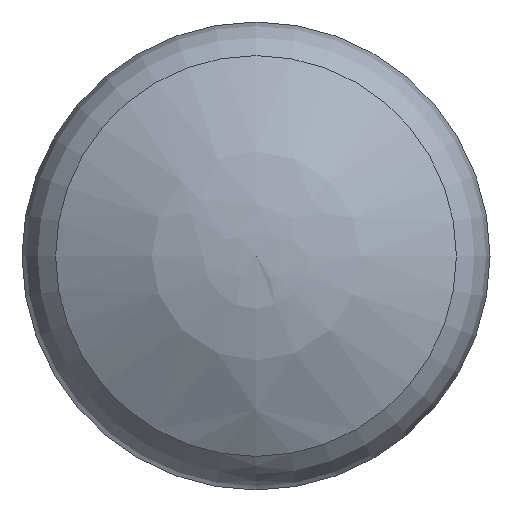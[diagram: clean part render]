
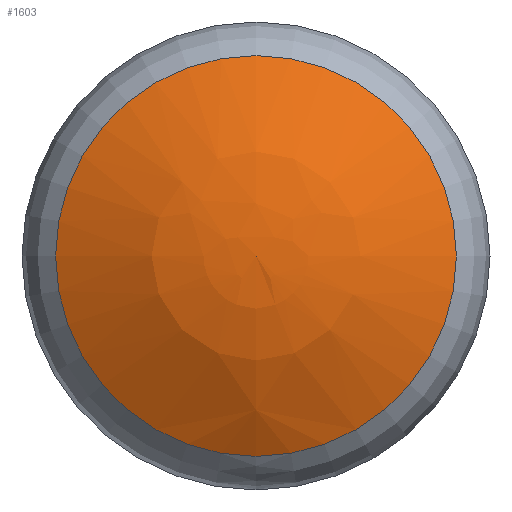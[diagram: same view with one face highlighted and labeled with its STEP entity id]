
A CAD part, front view. The second image highlights one B-rep face of the part: STEP entity #1603.
In plain terms, the highlighted free-form (B-spline) face has degree [2, 2] with [3, 9] control points.
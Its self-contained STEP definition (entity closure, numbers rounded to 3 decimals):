
#64=(
BOUNDED_SURFACE()
B_SPLINE_SURFACE(2,2,((#2544,#2545,#2546,#2547,#2548,#2549,#2550,#2551,
#2552),(#2553,#2554,#2555,#2556,#2557,#2558,#2559,#2560,#2561),(#2562,#2563,
#2564,#2565,#2566,#2567,#2568,#2569,#2570)),.UNSPECIFIED.,.F.,.T.,.F.)
B_SPLINE_SURFACE_WITH_KNOTS((3,3),(3,2,2,2,3),(-1.571,-0.996),
(-3.142,-1.571,0.,1.571,3.142),
 .UNSPECIFIED.)
GEOMETRIC_REPRESENTATION_ITEM()
RATIONAL_B_SPLINE_SURFACE(((1.,0.707,1.,0.707,1.,
0.707,1.,0.707,1.),(0.959,0.678,
0.959,0.678,0.959,0.678,
0.959,0.678,0.959),(1.,0.707,
1.,0.707,1.,0.707,1.,0.707,1.)))
REPRESENTATION_ITEM('')
SURFACE()
);
#186=FACE_OUTER_BOUND('',#267,.T.);
#267=EDGE_LOOP('',(#1154,#1155,#1156));
#360=CIRCLE('',#1728,21.75);
#375=CIRCLE('',#1749,40.);
#633=VERTEX_POINT('',#2480);
#644=VERTEX_POINT('',#2571);
#817=EDGE_CURVE('',#633,#633,#360,.T.);
#836=EDGE_CURVE('',#633,#644,#375,.T.);
#1154=ORIENTED_EDGE('',*,*,#817,.F.);
#1155=ORIENTED_EDGE('',*,*,#836,.T.);
#1156=ORIENTED_EDGE('',*,*,#836,.F.);
#1603=ADVANCED_FACE('',(#186),#64,.F.);
#1728=AXIS2_PLACEMENT_3D('',#2482,#1970,#1971);
#1749=AXIS2_PLACEMENT_3D('',#2572,#2016,#2017);
#1970=DIRECTION('center_axis',(0.,1.,0.));
#1971=DIRECTION('ref_axis',(1.,0.,0.));
#2016=DIRECTION('center_axis',(-1.,0.,0.));
#2017=DIRECTION('ref_axis',(0.,0.,-1.));
#2480=CARTESIAN_POINT('',(0.,6.43,-21.75));
#2482=CARTESIAN_POINT('Origin',(0.,6.43,0.));
#2544=CARTESIAN_POINT('Ctrl Pts',(0.,0.,
0.));
#2545=CARTESIAN_POINT('Ctrl Pts',(0.,0.,
0.));
#2546=CARTESIAN_POINT('Ctrl Pts',(0.,0.,
0.));
#2547=CARTESIAN_POINT('Ctrl Pts',(0.,0.,
0.));
#2548=CARTESIAN_POINT('Ctrl Pts',(0.,0.,
0.));
#2549=CARTESIAN_POINT('Ctrl Pts',(0.,0.,
0.));
#2550=CARTESIAN_POINT('Ctrl Pts',(0.,0.,
0.));
#2551=CARTESIAN_POINT('Ctrl Pts',(0.,0.,
0.));
#2552=CARTESIAN_POINT('Ctrl Pts',(0.,0.,
0.));
#2553=CARTESIAN_POINT('Ctrl Pts',(0.,0.,
-11.825));
#2554=CARTESIAN_POINT('Ctrl Pts',(-11.825,0.,
-11.825));
#2555=CARTESIAN_POINT('Ctrl Pts',(-11.825,0.,
0.));
#2556=CARTESIAN_POINT('Ctrl Pts',(-11.825,0.,
11.825));
#2557=CARTESIAN_POINT('Ctrl Pts',(0.,0.,
11.825));
#2558=CARTESIAN_POINT('Ctrl Pts',(11.825,0.,
11.825));
#2559=CARTESIAN_POINT('Ctrl Pts',(11.825,0.,
0.));
#2560=CARTESIAN_POINT('Ctrl Pts',(11.825,0.,
-11.825));
#2561=CARTESIAN_POINT('Ctrl Pts',(0.,0.,
-11.825));
#2562=CARTESIAN_POINT('Ctrl Pts',(0.,6.43,
-21.75));
#2563=CARTESIAN_POINT('Ctrl Pts',(-21.75,6.43,-21.75));
#2564=CARTESIAN_POINT('Ctrl Pts',(-21.75,6.43,0.));
#2565=CARTESIAN_POINT('Ctrl Pts',(-21.75,6.43,21.75));
#2566=CARTESIAN_POINT('Ctrl Pts',(0.,6.43,
21.75));
#2567=CARTESIAN_POINT('Ctrl Pts',(21.75,6.43,21.75));
#2568=CARTESIAN_POINT('Ctrl Pts',(21.75,6.43,0.));
#2569=CARTESIAN_POINT('Ctrl Pts',(21.75,6.43,-21.75));
#2570=CARTESIAN_POINT('Ctrl Pts',(0.,6.43,
-21.75));
#2571=CARTESIAN_POINT('',(0.,0.,0.));
#2572=CARTESIAN_POINT('Origin',(0.,40.,0.));
